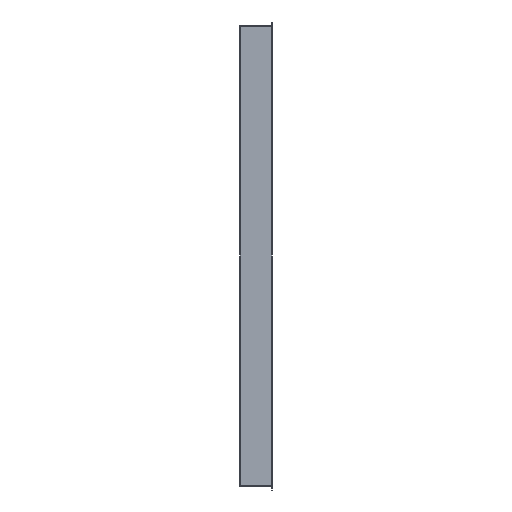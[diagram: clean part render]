
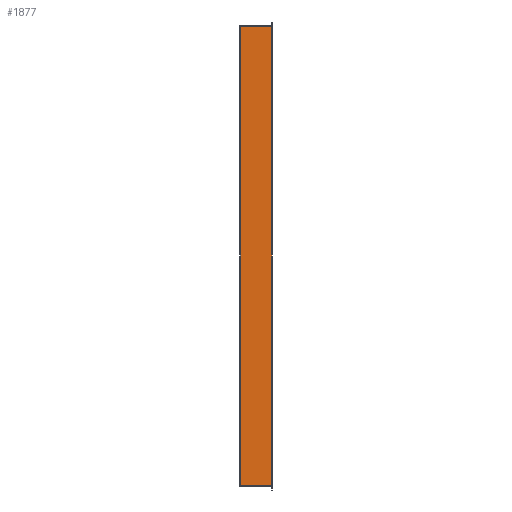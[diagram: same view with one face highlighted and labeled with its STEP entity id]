
A CAD part, left-side view. The second image highlights one B-rep face of the part: STEP entity #1877.
In plain terms, the highlighted planar face has unit normal (-1, 0, 0).
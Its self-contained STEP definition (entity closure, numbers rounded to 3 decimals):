
#12 = VECTOR ( 'NONE', #1695, 1000. ) ;
#15 = LINE ( 'NONE', #1210, #1892 ) ;
#130 = VERTEX_POINT ( 'NONE', #1339 ) ;
#148 = VERTEX_POINT ( 'NONE', #249 ) ;
#154 = PLANE ( 'NONE',  #1987 ) ;
#199 = CARTESIAN_POINT ( 'NONE',  ( -38.1, 1.794, 0. ) ) ;
#249 = CARTESIAN_POINT ( 'NONE',  ( -38.112, 77.417, 0. ) ) ;
#413 = ORIENTED_EDGE ( 'NONE', *, *, #2184, .T. ) ;
#525 = VECTOR ( 'NONE', #1579, 1000. ) ;
#528 = EDGE_CURVE ( 'NONE', #565, #639, #1486, .T. ) ;
#565 = VERTEX_POINT ( 'NONE', #1762 ) ;
#618 = VECTOR ( 'NONE', #1677, 1000. ) ;
#639 = VERTEX_POINT ( 'NONE', #1984 ) ;
#671 = LINE ( 'NONE', #959, #618 ) ;
#801 = CARTESIAN_POINT ( 'NONE',  ( -38.1, 1.794, -1136. ) ) ;
#959 = CARTESIAN_POINT ( 'NONE',  ( -38.1, 1.794, 0. ) ) ;
#1210 = CARTESIAN_POINT ( 'NONE',  ( -38.112, 77.417, 0. ) ) ;
#1245 = CARTESIAN_POINT ( 'NONE',  ( -38.1, 1.794, 0. ) ) ;
#1332 = ORIENTED_EDGE ( 'NONE', *, *, #2106, .F. ) ;
#1339 = CARTESIAN_POINT ( 'NONE',  ( -38.112, 77.417, -1136. ) ) ;
#1460 = LINE ( 'NONE', #801, #12 ) ;
#1486 = LINE ( 'NONE', #199, #525 ) ;
#1579 = DIRECTION ( 'NONE',  ( 0., 0., -1. ) ) ;
#1603 = FACE_OUTER_BOUND ( 'NONE', #1858, .T. ) ;
#1612 = DIRECTION ( 'NONE',  ( 0., 1., 0. ) ) ;
#1677 = DIRECTION ( 'NONE',  ( 0., -1., 0. ) ) ;
#1695 = DIRECTION ( 'NONE',  ( 0., -1., 0. ) ) ;
#1727 = EDGE_CURVE ( 'NONE', #148, #130, #15, .T. ) ;
#1762 = CARTESIAN_POINT ( 'NONE',  ( -38.1, 1.794, 0. ) ) ;
#1818 = DIRECTION ( 'NONE',  ( 1., 0., 0. ) ) ;
#1858 = EDGE_LOOP ( 'NONE', ( #2201, #1332, #2009, #413 ) ) ;
#1877 = ADVANCED_FACE ( 'NONE', ( #1603 ), #154, .F. ) ;
#1892 = VECTOR ( 'NONE', #1940, 1000. ) ;
#1940 = DIRECTION ( 'NONE',  ( 0., 0., -1. ) ) ;
#1984 = CARTESIAN_POINT ( 'NONE',  ( -38.1, 1.794, -1136. ) ) ;
#1987 = AXIS2_PLACEMENT_3D ( 'NONE', #1245, #1818, #1612 ) ;
#2009 = ORIENTED_EDGE ( 'NONE', *, *, #1727, .T. ) ;
#2106 = EDGE_CURVE ( 'NONE', #148, #565, #671, .T. ) ;
#2184 = EDGE_CURVE ( 'NONE', #130, #639, #1460, .T. ) ;
#2201 = ORIENTED_EDGE ( 'NONE', *, *, #528, .F. ) ;
